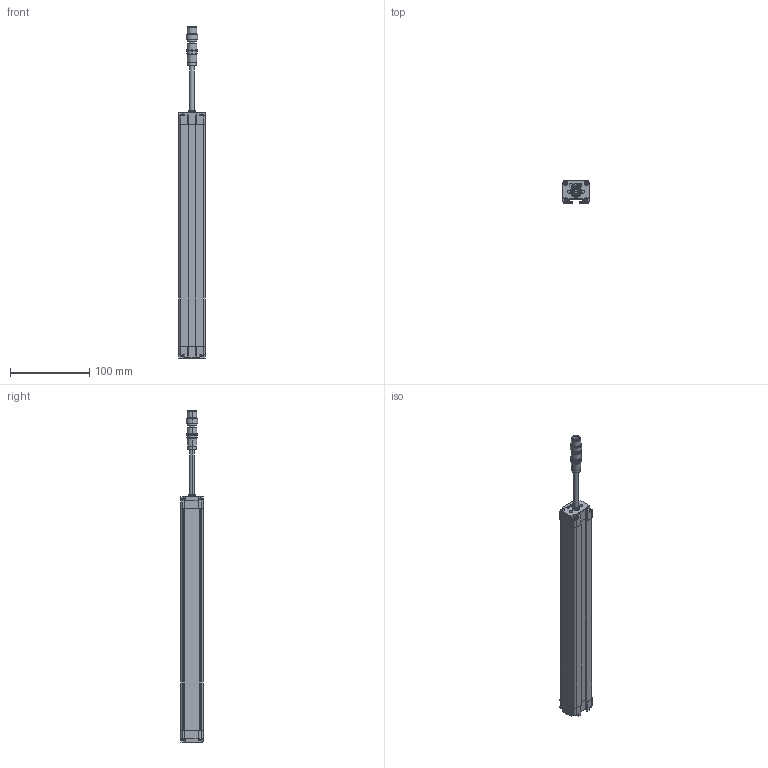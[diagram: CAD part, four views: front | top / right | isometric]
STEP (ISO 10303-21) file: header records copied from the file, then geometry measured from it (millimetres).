
FILE_DESCRIPTION((''),'2;1');
FILE_NAME('SMT1-CGQ_ASM','2025-08-08T08:21:01',('Administrator'),(''),'CREO PARAMETRIC BY PTC INC, 2016510','CREO PARAMETRIC BY PTC INC, 2016510','');
FILE_SCHEMA(('CONFIG_CONTROL_DESIGN'));
Length unit declared in the file: millimetre
Products named in the file (7): SMT1-XINGCAI-V1; SMT1-SDG-V1; SMT1-XDG-V1; M12-CHATOU; ST3X18; CT4-LVGUANGBAN; SMT1-CGQ_ASM
Assembly tree (13 placements, depth 2):
  SMT1-CGQ_ASM
    SMT1-XINGCAI-V1
    SMT1-SDG-V1
    SMT1-XDG-V1
    M12-CHATOU
    ST3X18  x8
    CT4-LVGUANGBAN
Bounding box: 33 x 28.02 x 419.5 mm (x, y, z)
Volume: 246000.2 mm3; surface area: 84121.3 mm2
Topology: 13 solids, 13 shells, 712 faces, 1868 edges, 1200 vertices
Faces by surface type: plane 382, cylinder 184, extrusion 86, sphere 32, cone 20, bspline 8
Entity records: 18128 total; most frequent: CARTESIAN_POINT 4347, ORIENTED_EDGE 2916, DIRECTION 2580, EDGE_CURVE 1458, VECTOR 1036, VERTEX_POINT 955, LINE 950, AXIS2_PLACEMENT_3D 772
